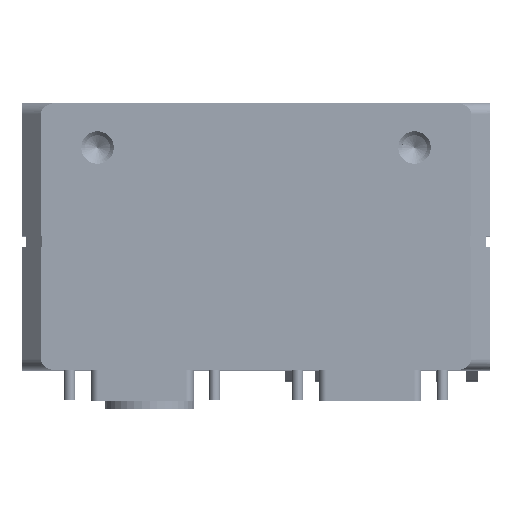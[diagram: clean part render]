
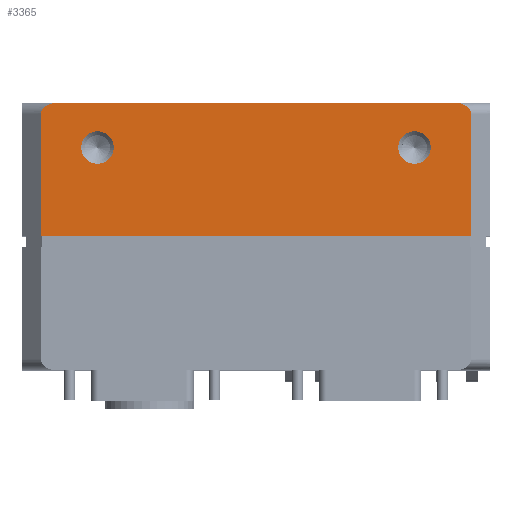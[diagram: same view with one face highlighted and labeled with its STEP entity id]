
A CAD part, top view. The second image highlights one B-rep face of the part: STEP entity #3365.
In plain terms, the highlighted planar face has unit normal (0, 0, 1) as drawn and (0, 1, 0) by its records, which use the part's own axes.
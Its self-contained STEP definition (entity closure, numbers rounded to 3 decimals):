
#2=CARTESIAN_POINT('',(21.,31.,-8.53));
#3=DIRECTION('',(0.,-1.,0.));
#4=DIRECTION('',(-1.,0.,0.));
#5=AXIS2_PLACEMENT_3D('',#2,#3,#4);
#7=CARTESIAN_POINT('',(21.,31.,-8.53));
#8=DIRECTION('',(0.,-1.,0.));
#9=DIRECTION('',(1.,0.,0.));
#10=AXIS2_PLACEMENT_3D('',#7,#8,#9);
#12=CARTESIAN_POINT('',(-21.,31.,-8.53));
#13=DIRECTION('',(0.,-1.,0.));
#14=DIRECTION('',(1.,0.,0.));
#15=AXIS2_PLACEMENT_3D('',#12,#13,#14);
#17=CARTESIAN_POINT('',(-21.,31.,-8.53));
#18=DIRECTION('',(0.,-1.,0.));
#19=DIRECTION('',(-1.,0.,0.));
#20=AXIS2_PLACEMENT_3D('',#17,#18,#19);
#22=CARTESIAN_POINT('',(28.5,31.,-12.96));
#23=CARTESIAN_POINT('',(28.5,31.,-13.111));
#24=CARTESIAN_POINT('',(28.443,31.,-13.355));
#25=CARTESIAN_POINT('',(28.226,31.,-13.742));
#26=CARTESIAN_POINT('',(27.826,31.,-14.097));
#27=CARTESIAN_POINT('',(27.2,31.,-14.376));
#28=CARTESIAN_POINT('',(26.68,31.,-14.46));
#29=CARTESIAN_POINT('',(26.379,31.,-14.46));
#31=DIRECTION('',(0.,0.,1.));
#32=VECTOR('',#31,16.13);
#33=CARTESIAN_POINT('',(28.5,31.,-12.96));
#34=LINE('',#33,#32);
#35=DIRECTION('',(1.,0.,0.));
#36=VECTOR('',#35,57.);
#37=CARTESIAN_POINT('',(-28.5,31.,3.17));
#38=LINE('',#37,#36);
#39=DIRECTION('',(0.,0.,1.));
#40=VECTOR('',#39,16.13);
#41=CARTESIAN_POINT('',(-28.5,31.,-12.96));
#42=LINE('',#41,#40);
#43=CARTESIAN_POINT('',(-26.379,31.,-14.46));
#44=CARTESIAN_POINT('',(-26.68,31.,-14.46));
#45=CARTESIAN_POINT('',(-27.2,31.,-14.376));
#46=CARTESIAN_POINT('',(-27.826,31.,-14.097));
#47=CARTESIAN_POINT('',(-28.226,31.,-13.742));
#48=CARTESIAN_POINT('',(-28.443,31.,-13.355));
#49=CARTESIAN_POINT('',(-28.5,31.,-13.111));
#50=CARTESIAN_POINT('',(-28.5,31.,-12.96));
#348=DIRECTION('',(1.,0.,0.));
#349=VECTOR('',#348,52.757);
#350=CARTESIAN_POINT('',(-26.379,31.,-14.46));
#351=LINE('',#350,#349);
#2676=CARTESIAN_POINT('',(18.85,31.,-8.53));
#2677=CARTESIAN_POINT('',(23.15,31.,-8.53));
#2678=VERTEX_POINT('',#2676);
#2679=VERTEX_POINT('',#2677);
#2684=CARTESIAN_POINT('',(-18.85,31.,-8.53));
#2685=CARTESIAN_POINT('',(-23.15,31.,-8.53));
#2686=VERTEX_POINT('',#2684);
#2687=VERTEX_POINT('',#2685);
#2819=CARTESIAN_POINT('',(28.5,31.,-12.96));
#2820=VERTEX_POINT('',#2819);
#2821=VERTEX_POINT('',#29);
#2826=VERTEX_POINT('',#43);
#2827=VERTEX_POINT('',#50);
#2830=CARTESIAN_POINT('',(-28.5,31.,3.17));
#2831=CARTESIAN_POINT('',(28.5,31.,3.17));
#2832=VERTEX_POINT('',#2830);
#2833=VERTEX_POINT('',#2831);
#3334=CARTESIAN_POINT('',(-31.,31.,-12.6));
#3335=DIRECTION('',(0.,1.,0.));
#3336=DIRECTION('',(1.,0.,0.));
#3337=AXIS2_PLACEMENT_3D('',#3334,#3335,#3336);
#3338=PLANE('',#3337);
#3340=ORIENTED_EDGE('',*,*,#3339,.F.);
#3342=ORIENTED_EDGE('',*,*,#3341,.T.);
#3344=ORIENTED_EDGE('',*,*,#3343,.F.);
#3346=ORIENTED_EDGE('',*,*,#3345,.F.);
#3348=ORIENTED_EDGE('',*,*,#3347,.F.);
#3350=ORIENTED_EDGE('',*,*,#3349,.T.);
#3351=EDGE_LOOP('',(#3340,#3342,#3344,#3346,#3348,#3350));
#3352=FACE_OUTER_BOUND('',#3351,.F.);
#3354=ORIENTED_EDGE('',*,*,#3353,.F.);
#3356=ORIENTED_EDGE('',*,*,#3355,.F.);
#3357=EDGE_LOOP('',(#3354,#3356));
#3358=FACE_BOUND('',#3357,.F.);
#3360=ORIENTED_EDGE('',*,*,#3359,.F.);
#3362=ORIENTED_EDGE('',*,*,#3361,.F.);
#3363=EDGE_LOOP('',(#3360,#3362));
#3364=FACE_BOUND('',#3363,.F.);
#3365=ADVANCED_FACE('',(#3352,#3358,#3364),#3338,.T.);
#6=CIRCLE('',#5,2.15);
#11=CIRCLE('',#10,2.15);
#16=CIRCLE('',#15,2.15);
#21=CIRCLE('',#20,2.15);
#30=B_SPLINE_CURVE_WITH_KNOTS('',3,(#22,#23,#24,#25,#26,#27,#28,#29),
.UNSPECIFIED.,.F.,.F.,(4,1,1,1,1,4),(0.,0.125,0.25,0.5,0.75,1.),
.UNSPECIFIED.);
#51=B_SPLINE_CURVE_WITH_KNOTS('',3,(#43,#44,#45,#46,#47,#48,#49,#50),
.UNSPECIFIED.,.F.,.F.,(4,1,1,1,1,4),(0.,0.25,0.5,0.75,0.875,1.),
.UNSPECIFIED.);
#3339=EDGE_CURVE('',#2820,#2821,#30,.T.);
#3341=EDGE_CURVE('',#2820,#2833,#34,.T.);
#3343=EDGE_CURVE('',#2832,#2833,#38,.T.);
#3345=EDGE_CURVE('',#2827,#2832,#42,.T.);
#3347=EDGE_CURVE('',#2826,#2827,#51,.T.);
#3349=EDGE_CURVE('',#2826,#2821,#351,.T.);
#3353=EDGE_CURVE('',#2686,#2687,#16,.T.);
#3355=EDGE_CURVE('',#2687,#2686,#21,.T.);
#3359=EDGE_CURVE('',#2678,#2679,#6,.T.);
#3361=EDGE_CURVE('',#2679,#2678,#11,.T.);
